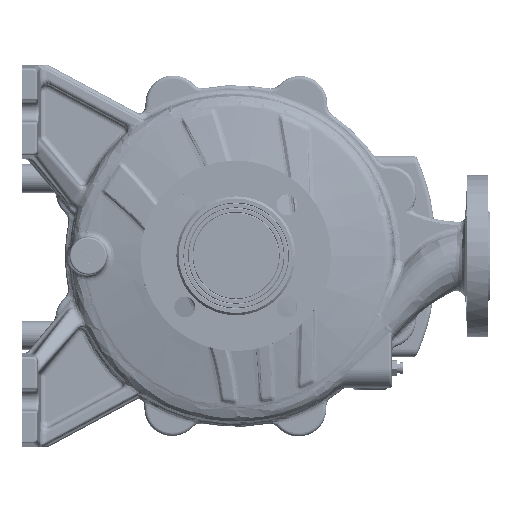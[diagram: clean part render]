
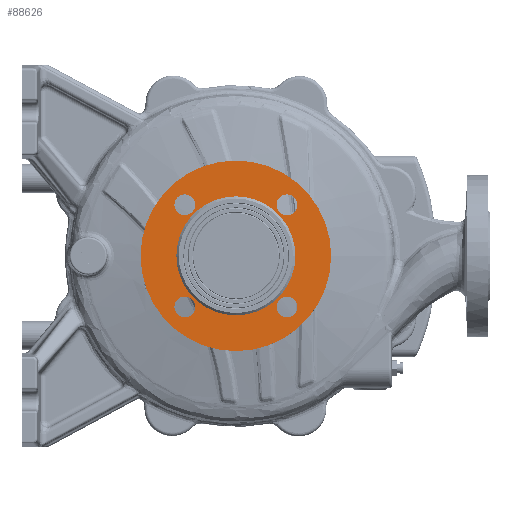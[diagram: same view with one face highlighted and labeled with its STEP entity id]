
A CAD part, top view. The second image highlights one B-rep face of the part: STEP entity #88626.
In plain terms, the highlighted planar face has unit normal (0, 0, 1).
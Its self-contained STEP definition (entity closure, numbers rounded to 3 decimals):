
#3490 = ORIENTED_EDGE ( 'NONE', *, *, #103333, .F. ) ;
#3989 = EDGE_CURVE ( 'NONE', #40630, #170255, #180833, .T. ) ;
#4816 = EDGE_LOOP ( 'NONE', ( #3490, #182655 ) ) ;
#6367 = VERTEX_POINT ( 'NONE', #72137 ) ;
#8104 = CIRCLE ( 'NONE', #59476, 9. ) ;
#9094 = DIRECTION ( 'NONE',  ( 0., 0., -1. ) ) ;
#9432 = CARTESIAN_POINT ( 'NONE',  ( -133.884, -0.851, 85.574 ) ) ;
#9631 = CIRCLE ( 'NONE', #42784, 82.5 ) ;
#11198 = AXIS2_PLACEMENT_3D ( 'NONE', #145666, #103223, #160708 ) ;
#16050 = EDGE_LOOP ( 'NONE', ( #86022, #52341 ) ) ;
#17838 = CARTESIAN_POINT ( 'NONE',  ( -251.578, -45.045, 85.574 ) ) ;
#20646 = DIRECTION ( 'NONE',  ( 1., 0., 0. ) ) ;
#23668 = PLANE ( 'NONE',  #158082 ) ;
#25420 = DIRECTION ( 'NONE',  ( 1., 0., 0. ) ) ;
#25634 = DIRECTION ( 'NONE',  ( 1., 0., 0. ) ) ;
#26034 = DIRECTION ( 'NONE',  ( -1., 0., 0. ) ) ;
#26562 = DIRECTION ( 'NONE',  ( 0., 0., 1. ) ) ;
#27996 = DIRECTION ( 'NONE',  ( 0., 0., 1. ) ) ;
#29452 = VERTEX_POINT ( 'NONE', #17838 ) ;
#30303 = DIRECTION ( 'NONE',  ( 0., 0., -1. ) ) ;
#32734 = AXIS2_PLACEMENT_3D ( 'NONE', #84858, #54699, #25420 ) ;
#33090 = EDGE_LOOP ( 'NONE', ( #80883, #37286 ) ) ;
#35085 = CARTESIAN_POINT ( 'NONE',  ( -269.578, -45.045, 85.574 ) ) ;
#35360 = DIRECTION ( 'NONE',  ( -1., 0., 0. ) ) ;
#35894 = DIRECTION ( 'NONE',  ( 0., 0., 1. ) ) ;
#36898 = FACE_BOUND ( 'NONE', #86081, .T. ) ;
#37286 = ORIENTED_EDGE ( 'NONE', *, *, #163657, .T. ) ;
#37406 = CARTESIAN_POINT ( 'NONE',  ( -216.384, -0.851, 85.574 ) ) ;
#37584 = VERTEX_POINT ( 'NONE', #170835 ) ;
#38439 = VERTEX_POINT ( 'NONE', #143967 ) ;
#40630 = VERTEX_POINT ( 'NONE', #108956 ) ;
#42784 = AXIS2_PLACEMENT_3D ( 'NONE', #136325, #124058, #35360 ) ;
#43390 = AXIS2_PLACEMENT_3D ( 'NONE', #51790, #92364, #20646 ) ;
#44028 = CARTESIAN_POINT ( 'NONE',  ( -260.578, -45.045, 85.574 ) ) ;
#44605 = DIRECTION ( 'NONE',  ( 0., 0., 1. ) ) ;
#44849 = CIRCLE ( 'NONE', #32734, 9. ) ;
#48547 = CIRCLE ( 'NONE', #90703, 9. ) ;
#49035 = CIRCLE ( 'NONE', #94268, 51.5 ) ;
#51790 = CARTESIAN_POINT ( 'NONE',  ( -260.578, 43.344, 85.574 ) ) ;
#52341 = ORIENTED_EDGE ( 'NONE', *, *, #121477, .F. ) ;
#54318 = VERTEX_POINT ( 'NONE', #147069 ) ;
#54699 = DIRECTION ( 'NONE',  ( 0., 0., 1. ) ) ;
#56407 = VERTEX_POINT ( 'NONE', #9432 ) ;
#58276 = CARTESIAN_POINT ( 'NONE',  ( -163.19, -45.045, 85.574 ) ) ;
#59476 = AXIS2_PLACEMENT_3D ( 'NONE', #44028, #27996, #103440 ) ;
#59712 = DIRECTION ( 'NONE',  ( 1., 0., 0. ) ) ;
#60987 = ORIENTED_EDGE ( 'NONE', *, *, #92916, .F. ) ;
#61470 = CIRCLE ( 'NONE', #166851, 9. ) ;
#63643 = AXIS2_PLACEMENT_3D ( 'NONE', #71856, #30303, #174587 ) ;
#67510 = CIRCLE ( 'NONE', #43390, 9. ) ;
#68165 = AXIS2_PLACEMENT_3D ( 'NONE', #116337, #44605, #59712 ) ;
#71253 = AXIS2_PLACEMENT_3D ( 'NONE', #185695, #186628, #84832 ) ;
#71856 = CARTESIAN_POINT ( 'NONE',  ( -216.384, -0.851, 85.574 ) ) ;
#72137 = CARTESIAN_POINT ( 'NONE',  ( -181.19, 43.344, 85.574 ) ) ;
#74539 = ORIENTED_EDGE ( 'NONE', *, *, #3989, .F. ) ;
#75618 = DIRECTION ( 'NONE',  ( 1., 0., 0. ) ) ;
#77194 = CIRCLE ( 'NONE', #68165, 9. ) ;
#80883 = ORIENTED_EDGE ( 'NONE', *, *, #129441, .T. ) ;
#84832 = DIRECTION ( 'NONE',  ( -1., 0., 0. ) ) ;
#84858 = CARTESIAN_POINT ( 'NONE',  ( -172.19, -45.045, 85.574 ) ) ;
#86022 = ORIENTED_EDGE ( 'NONE', *, *, #174535, .F. ) ;
#86081 = EDGE_LOOP ( 'NONE', ( #108938, #60987 ) ) ;
#86415 = ORIENTED_EDGE ( 'NONE', *, *, #184842, .F. ) ;
#88626 = ADVANCED_FACE ( 'NONE', ( #166136, #150132, #121871, #36898, #109548, #94473 ), #23668, .F. ) ;
#89495 = CIRCLE ( 'NONE', #11198, 9. ) ;
#90703 = AXIS2_PLACEMENT_3D ( 'NONE', #169945, #26562, #25634 ) ;
#90940 = ORIENTED_EDGE ( 'NONE', *, *, #157530, .F. ) ;
#92364 = DIRECTION ( 'NONE',  ( 0., 0., 1. ) ) ;
#92916 = EDGE_CURVE ( 'NONE', #6367, #54318, #77194, .T. ) ;
#93044 = VERTEX_POINT ( 'NONE', #35085 ) ;
#94268 = AXIS2_PLACEMENT_3D ( 'NONE', #37406, #9094, #26034 ) ;
#94315 = EDGE_LOOP ( 'NONE', ( #86415, #151228 ) ) ;
#94473 = FACE_BOUND ( 'NONE', #33090, .T. ) ;
#95394 = DIRECTION ( 'NONE',  ( -1., 0., 0. ) ) ;
#103223 = DIRECTION ( 'NONE',  ( 0., 0., 1. ) ) ;
#103333 = EDGE_CURVE ( 'NONE', #135246, #56407, #9631, .T. ) ;
#103440 = DIRECTION ( 'NONE',  ( 1., 0., 0. ) ) ;
#108938 = ORIENTED_EDGE ( 'NONE', *, *, #167822, .F. ) ;
#108956 = CARTESIAN_POINT ( 'NONE',  ( -269.578, 43.344, 85.574 ) ) ;
#109548 = FACE_OUTER_BOUND ( 'NONE', #4816, .T. ) ;
#111756 = CARTESIAN_POINT ( 'NONE',  ( -172.19, -45.045, 85.574 ) ) ;
#116337 = CARTESIAN_POINT ( 'NONE',  ( -172.19, 43.344, 85.574 ) ) ;
#120190 = EDGE_LOOP ( 'NONE', ( #90940, #74539 ) ) ;
#121477 = EDGE_CURVE ( 'NONE', #38439, #156600, #44849, .T. ) ;
#121871 = FACE_BOUND ( 'NONE', #16050, .T. ) ;
#123149 = DIRECTION ( 'NONE',  ( 0., 0., 1. ) ) ;
#124058 = DIRECTION ( 'NONE',  ( 0., 0., -1. ) ) ;
#127622 = CARTESIAN_POINT ( 'NONE',  ( -164.884, -0.851, 85.574 ) ) ;
#129441 = EDGE_CURVE ( 'NONE', #37584, #176220, #49035, .T. ) ;
#132865 = CIRCLE ( 'NONE', #63643, 82.5 ) ;
#135246 = VERTEX_POINT ( 'NONE', #173712 ) ;
#136325 = CARTESIAN_POINT ( 'NONE',  ( -216.384, -0.851, 85.574 ) ) ;
#141675 = AXIS2_PLACEMENT_3D ( 'NONE', #176490, #35894, #75618 ) ;
#143967 = CARTESIAN_POINT ( 'NONE',  ( -181.19, -45.045, 85.574 ) ) ;
#145666 = CARTESIAN_POINT ( 'NONE',  ( -260.578, -45.045, 85.574 ) ) ;
#147069 = CARTESIAN_POINT ( 'NONE',  ( -163.19, 43.344, 85.574 ) ) ;
#150132 = FACE_BOUND ( 'NONE', #94315, .T. ) ;
#151228 = ORIENTED_EDGE ( 'NONE', *, *, #184521, .F. ) ;
#156600 = VERTEX_POINT ( 'NONE', #58276 ) ;
#157530 = EDGE_CURVE ( 'NONE', #170255, #40630, #67510, .T. ) ;
#158082 = AXIS2_PLACEMENT_3D ( 'NONE', #178424, #179343, #95394 ) ;
#158584 = CIRCLE ( 'NONE', #71253, 51.5 ) ;
#160708 = DIRECTION ( 'NONE',  ( 1., 0., 0. ) ) ;
#163657 = EDGE_CURVE ( 'NONE', #176220, #37584, #158584, .T. ) ;
#166136 = FACE_BOUND ( 'NONE', #120190, .T. ) ;
#166851 = AXIS2_PLACEMENT_3D ( 'NONE', #111756, #123149, #169279 ) ;
#167822 = EDGE_CURVE ( 'NONE', #54318, #6367, #48547, .T. ) ;
#168007 = EDGE_CURVE ( 'NONE', #56407, #135246, #132865, .T. ) ;
#169095 = CARTESIAN_POINT ( 'NONE',  ( -251.578, 43.344, 85.574 ) ) ;
#169279 = DIRECTION ( 'NONE',  ( 1., 0., 0. ) ) ;
#169945 = CARTESIAN_POINT ( 'NONE',  ( -172.19, 43.344, 85.574 ) ) ;
#170255 = VERTEX_POINT ( 'NONE', #169095 ) ;
#170835 = CARTESIAN_POINT ( 'NONE',  ( -267.884, -0.851, 85.574 ) ) ;
#173712 = CARTESIAN_POINT ( 'NONE',  ( -298.884, -0.851, 85.574 ) ) ;
#174535 = EDGE_CURVE ( 'NONE', #156600, #38439, #61470, .T. ) ;
#174587 = DIRECTION ( 'NONE',  ( -1., 0., 0. ) ) ;
#176220 = VERTEX_POINT ( 'NONE', #127622 ) ;
#176490 = CARTESIAN_POINT ( 'NONE',  ( -260.578, 43.344, 85.574 ) ) ;
#178424 = CARTESIAN_POINT ( 'NONE',  ( -298.884, -0.851, 85.574 ) ) ;
#179343 = DIRECTION ( 'NONE',  ( 0., 0., -1. ) ) ;
#180833 = CIRCLE ( 'NONE', #141675, 9. ) ;
#182655 = ORIENTED_EDGE ( 'NONE', *, *, #168007, .F. ) ;
#184521 = EDGE_CURVE ( 'NONE', #93044, #29452, #8104, .T. ) ;
#184842 = EDGE_CURVE ( 'NONE', #29452, #93044, #89495, .T. ) ;
#185695 = CARTESIAN_POINT ( 'NONE',  ( -216.384, -0.851, 85.574 ) ) ;
#186628 = DIRECTION ( 'NONE',  ( 0., 0., -1. ) ) ;
